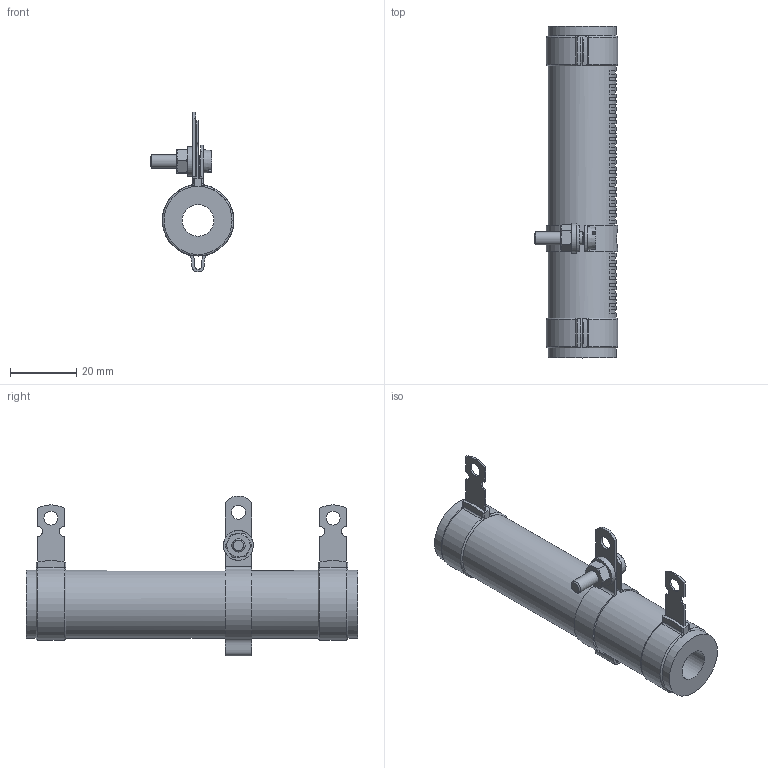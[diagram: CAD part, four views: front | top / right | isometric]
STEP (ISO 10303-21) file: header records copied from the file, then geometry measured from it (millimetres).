
FILE_DESCRIPTION(/* description */ (''),/* implementation_level */ '2;1');
FILE_NAME(/* name */ 'C:\_Vault\Dati\CATALOGO\RCA-RSA\R 25-1000\3D\RCAR 65.stp',/* time_stamp */ '2014-03-18T17:50:44+01:00',/* author */ ('stefano'),/* organization */ (''),/* preprocessor_version */ 'ST-DEVELOPER v15.2',/* originating_system */ 'Autodesk Inventor 2014',/* authorisation */ '');
FILE_SCHEMA (('AUTOMOTIVE_DESIGN { 1 0 10303 214 3 1 1 }'));
Length unit declared in the file: millimetre
Products named in the file (1): RCAR 65
Bounding box: 25.25 x 100 x 48.2 mm (x, y, z)
Volume: 27614.6 mm3; surface area: 12256.1 mm2
Topology: 1 solids, 1 shells, 312 faces, 758 edges, 491 vertices
Faces by surface type: plane 196, cylinder 82, cone 16, torus 14, bspline 4
Full cylindrical faces by diameter (mm): 3.571 x1, 4 x2, 4.2 x5, 4.3 x1, 9 x1, 9.5 x1, 20.5 x3
Entity records: 9615 total; most frequent: CARTESIAN_POINT 1917, DIRECTION 1574, ORIENTED_EDGE 1456, EDGE_CURVE 728, AXIS2_PLACEMENT_3D 589, VERTEX_POINT 480, LINE 396, VECTOR 396
